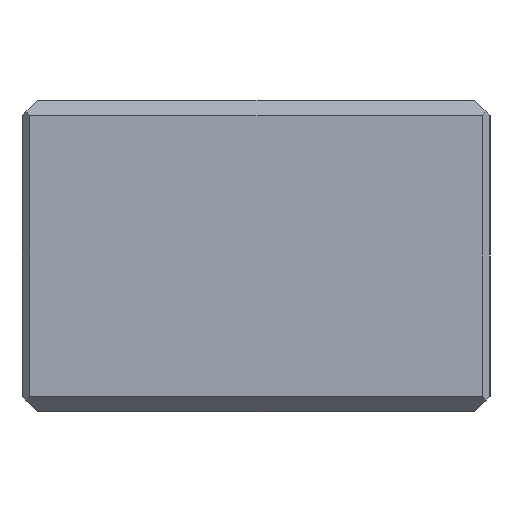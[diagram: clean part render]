
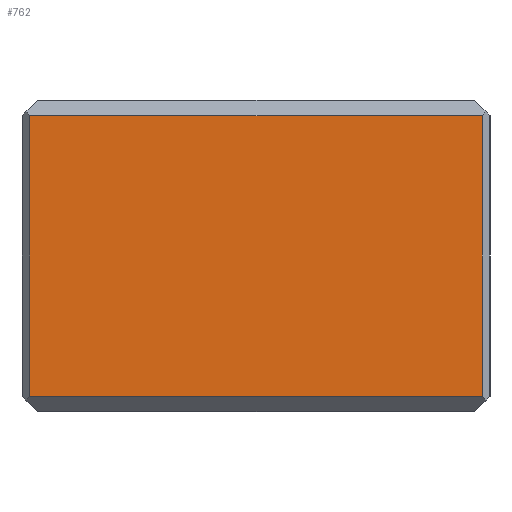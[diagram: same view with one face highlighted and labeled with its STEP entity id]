
A CAD part, left-side view. The second image highlights one B-rep face of the part: STEP entity #762.
In plain terms, the highlighted planar face has unit normal (-1, 0, 0).
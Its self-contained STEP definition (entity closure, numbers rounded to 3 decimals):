
#411=CARTESIAN_POINT('Vertex',(-60.,29.,38.)) ;
#414=CARTESIAN_POINT('Line Origine',(-60.,0.,38.)) ;
#418=CARTESIAN_POINT('Vertex',(-60.,-29.,38.)) ;
#722=CARTESIAN_POINT('Vertex',(-60.,29.,2.)) ;
#725=CARTESIAN_POINT('Line Origine',(-60.,29.,20.)) ;
#739=CARTESIAN_POINT('Axis2P3D Location',(-60.,30.,40.)) ;
#744=CARTESIAN_POINT('Line Origine',(-60.,0.,2.)) ;
#748=CARTESIAN_POINT('Vertex',(-60.,-29.,2.)) ;
#751=CARTESIAN_POINT('Line Origine',(-60.,-29.,20.)) ;
#415=DIRECTION('Vector Direction',(0.,1.,0.)) ;
#726=DIRECTION('Vector Direction',(0.,0.,-1.)) ;
#740=DIRECTION('Axis2P3D Direction',(1.,0.,-0.)) ;
#741=DIRECTION('Axis2P3D XDirection',(-0.,0.,-1.)) ;
#745=DIRECTION('Vector Direction',(0.,-1.,0.)) ;
#752=DIRECTION('Vector Direction',(0.,0.,1.)) ;
#742=AXIS2_PLACEMENT_3D('Plane Axis2P3D',#739,#740,#741) ;
#757=ORIENTED_EDGE('',*,*,#420,.T.) ;
#758=ORIENTED_EDGE('',*,*,#729,.T.) ;
#759=ORIENTED_EDGE('',*,*,#750,.T.) ;
#760=ORIENTED_EDGE('',*,*,#755,.T.) ;
#416=VECTOR('Line Direction',#415,1.) ;
#727=VECTOR('Line Direction',#726,1.) ;
#746=VECTOR('Line Direction',#745,1.) ;
#753=VECTOR('Line Direction',#752,1.) ;
#762=ADVANCED_FACE('Smusso4',(#761),#743,.F.) ;
#420=EDGE_CURVE('',#419,#412,#417,.T.) ;
#729=EDGE_CURVE('',#412,#723,#728,.T.) ;
#750=EDGE_CURVE('',#723,#749,#747,.T.) ;
#755=EDGE_CURVE('',#749,#419,#754,.T.) ;
#756=EDGE_LOOP('',(#757,#758,#759,#760)) ;
#761=FACE_OUTER_BOUND('',#756,.T.) ;
#417=LINE('Line',#414,#416) ;
#728=LINE('Line',#725,#727) ;
#747=LINE('Line',#744,#746) ;
#754=LINE('Line',#751,#753) ;
#743=PLANE('Plane',#742) ;
#412=VERTEX_POINT('',#411) ;
#419=VERTEX_POINT('',#418) ;
#723=VERTEX_POINT('',#722) ;
#749=VERTEX_POINT('',#748) ;
